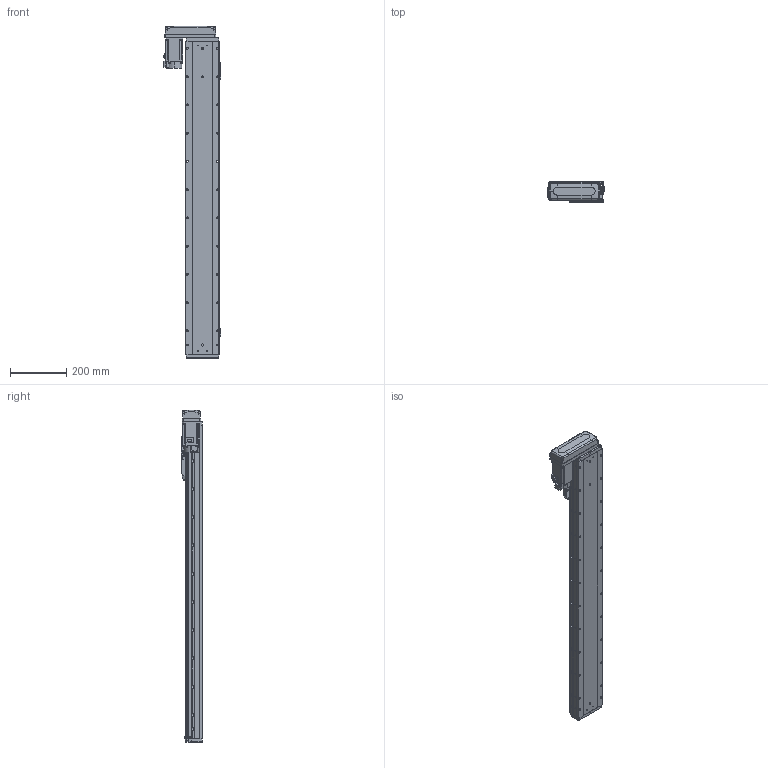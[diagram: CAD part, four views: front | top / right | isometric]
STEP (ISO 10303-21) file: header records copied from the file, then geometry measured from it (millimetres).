
FILE_DESCRIPTION (( 'STEP AP203' ), '1' );
FILE_NAME ('GTH12-900-BR-M40-C4.step', '2023-07-05T00:07:31', ( '微软用户' ), ( '微软中国' ), 'SwSTEP 2.0', 'SolidWorks 2020', '' );
FILE_SCHEMA (( 'CONFIG_CONTROL_DESIGN' ));
Length unit declared in the file: millimetre
Products named in the file (18): GTH120-027-1_GTH120-027-2; GBT 70.3-M3℅8; hg-kn43j_-s100_; GTH120-003; GTH12-900-BR-M40-C4; GTH80-022; CTHA86-033_M40B; GTH120-006; GTH80-028; GTH120-004; GTH50-023; GTH120-013; GTH50-024; GBT 70.1-M3℅6; GBT96.1-2002 3×0.8; GBT 70.1-M5×16; BTH-M3X5X6; GTH120-001_900
Assembly tree (59 placements, depth 2):
  GTH12-900-BR-M40-C4
    GTH120-001_900
    GTH120-003
    GTH120-006
    GTH120-004
    GTH120-013
    GBT 70.1-M3℅6  x14
    GBT 70.1-M5×16  x10
    GBT 70.3-M3℅8  x4
    GTH80-022
    GTH80-028  x2
    GTH50-023  x3
    GTH50-024  x3
    GBT96.1-2002 3×0.8  x6
    BTH-M3X5X6  x8
    hg-kn43j_-s100_
    CTHA86-033_M40B
    GTH120-027-1_GTH120-027-2
Bounding box: 203.5 x 76 x 1175.5 mm (x, y, z)
Volume: 8515128.6 mm3; surface area: 744595.2 mm2
Topology: 61 solids, 61 shells, 2520 faces, 5899 edges, 3621 vertices
Faces by surface type: plane 1286, cylinder 742, cone 304, torus 174, sphere 8, bspline 6
Entity records: 47965 total; most frequent: CARTESIAN_POINT 8126, DIRECTION 7971, ORIENTED_EDGE 7408, EDGE_CURVE 3704, AXIS2_PLACEMENT_3D 2787, VECTOR 2397, LINE 2397, VERTEX_POINT 2342
